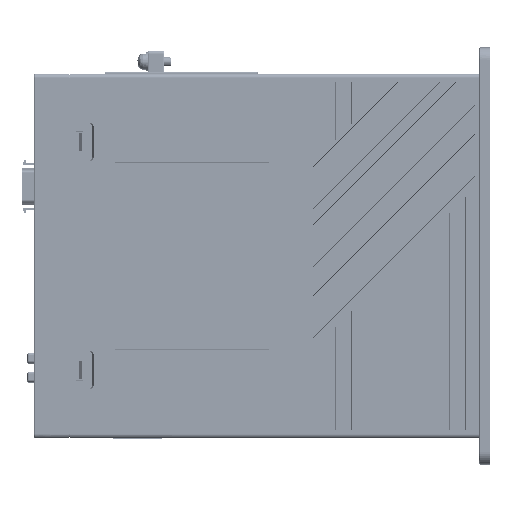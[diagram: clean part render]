
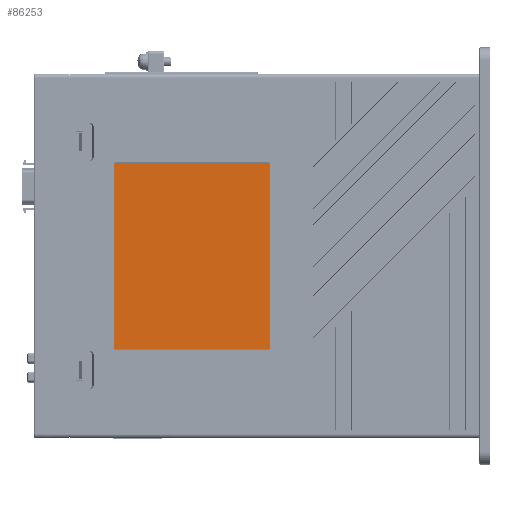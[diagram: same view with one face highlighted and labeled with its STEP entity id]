
A CAD part, left-side view. The second image highlights one B-rep face of the part: STEP entity #86253.
In plain terms, the highlighted planar face has unit normal (-1, 0, 0) as drawn and (0, 0, 1) by its records, which use the part's own axes.
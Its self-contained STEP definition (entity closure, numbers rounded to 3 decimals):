
#70078=CARTESIAN_POINT('',(-40.5,159.5,-0.3));
#70079=DIRECTION('',(0.,0.,-1.));
#70080=DIRECTION('',(-1.,0.,0.));
#70081=AXIS2_PLACEMENT_3D('',#70078,#70079,#70080);
#70083=DIRECTION('',(1.,0.,0.));
#70084=VECTOR('',#70083,81.);
#70085=CARTESIAN_POINT('',(-40.5,160.,-0.3));
#70086=LINE('',#70085,#70084);
#70087=CARTESIAN_POINT('',(40.5,159.5,-0.3));
#70088=DIRECTION('',(0.,0.,-1.));
#70089=DIRECTION('',(0.,1.,0.));
#70090=AXIS2_PLACEMENT_3D('',#70087,#70088,#70089);
#70092=DIRECTION('',(0.,-1.,0.));
#70093=VECTOR('',#70092,67.5);
#70094=CARTESIAN_POINT('',(41.,159.5,-0.3));
#70095=LINE('',#70094,#70093);
#70096=CARTESIAN_POINT('',(40.5,92.,-0.3));
#70097=DIRECTION('',(0.,0.,-1.));
#70098=DIRECTION('',(1.,0.,0.));
#70099=AXIS2_PLACEMENT_3D('',#70096,#70097,#70098);
#70101=DIRECTION('',(-1.,0.,0.));
#70102=VECTOR('',#70101,81.);
#70103=CARTESIAN_POINT('',(40.5,91.5,-0.3));
#70104=LINE('',#70103,#70102);
#70105=CARTESIAN_POINT('',(-40.5,92.,-0.3));
#70106=DIRECTION('',(0.,0.,-1.));
#70107=DIRECTION('',(0.,-1.,0.));
#70108=AXIS2_PLACEMENT_3D('',#70105,#70106,#70107);
#70110=DIRECTION('',(0.,1.,0.));
#70111=VECTOR('',#70110,67.5);
#70112=CARTESIAN_POINT('',(-41.,92.,-0.3));
#70113=LINE('',#70112,#70111);
#72926=CARTESIAN_POINT('',(41.,159.5,-0.3));
#72927=VERTEX_POINT('',#72926);
#72928=CARTESIAN_POINT('',(41.,92.,-0.3));
#72929=VERTEX_POINT('',#72928);
#72930=CARTESIAN_POINT('',(40.5,160.,-0.3));
#72931=VERTEX_POINT('',#72930);
#72932=CARTESIAN_POINT('',(-41.,159.5,-0.3));
#72933=CARTESIAN_POINT('',(-40.5,160.,-0.3));
#72934=VERTEX_POINT('',#72932);
#72935=VERTEX_POINT('',#72933);
#72936=CARTESIAN_POINT('',(40.5,91.5,-0.3));
#72937=VERTEX_POINT('',#72936);
#72938=CARTESIAN_POINT('',(-40.5,91.5,-0.3));
#72939=VERTEX_POINT('',#72938);
#72940=CARTESIAN_POINT('',(-41.,92.,-0.3));
#72941=VERTEX_POINT('',#72940);
#86232=CARTESIAN_POINT('',(0.,0.,-0.3));
#86233=DIRECTION('',(0.,0.,1.));
#86234=DIRECTION('',(1.,0.,0.));
#86235=AXIS2_PLACEMENT_3D('',#86232,#86233,#86234);
#86236=PLANE('',#86235);
#86238=ORIENTED_EDGE('',*,*,#86237,.T.);
#86240=ORIENTED_EDGE('',*,*,#86239,.T.);
#86241=ORIENTED_EDGE('',*,*,#86223,.T.);
#86242=ORIENTED_EDGE('',*,*,#86213,.T.);
#86244=ORIENTED_EDGE('',*,*,#86243,.T.);
#86246=ORIENTED_EDGE('',*,*,#86245,.T.);
#86248=ORIENTED_EDGE('',*,*,#86247,.T.);
#86250=ORIENTED_EDGE('',*,*,#86249,.T.);
#86251=EDGE_LOOP('',(#86238,#86240,#86241,#86242,#86244,#86246,#86248,#86250));
#86252=FACE_OUTER_BOUND('',#86251,.F.);
#86253=ADVANCED_FACE('',(#86252),#86236,.T.);
#70082=CIRCLE('',#70081,0.5);
#70091=CIRCLE('',#70090,0.5);
#70100=CIRCLE('',#70099,0.5);
#70109=CIRCLE('',#70108,0.5);
#86213=EDGE_CURVE('',#72927,#72929,#70095,.T.);
#86223=EDGE_CURVE('',#72931,#72927,#70091,.T.);
#86237=EDGE_CURVE('',#72934,#72935,#70082,.T.);
#86239=EDGE_CURVE('',#72935,#72931,#70086,.T.);
#86243=EDGE_CURVE('',#72929,#72937,#70100,.T.);
#86245=EDGE_CURVE('',#72937,#72939,#70104,.T.);
#86247=EDGE_CURVE('',#72939,#72941,#70109,.T.);
#86249=EDGE_CURVE('',#72941,#72934,#70113,.T.);
